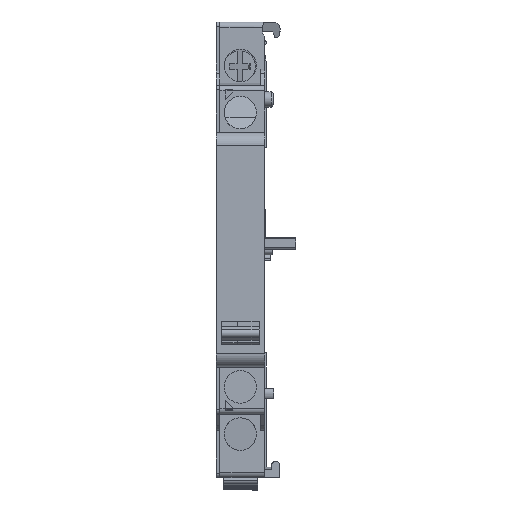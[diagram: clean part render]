
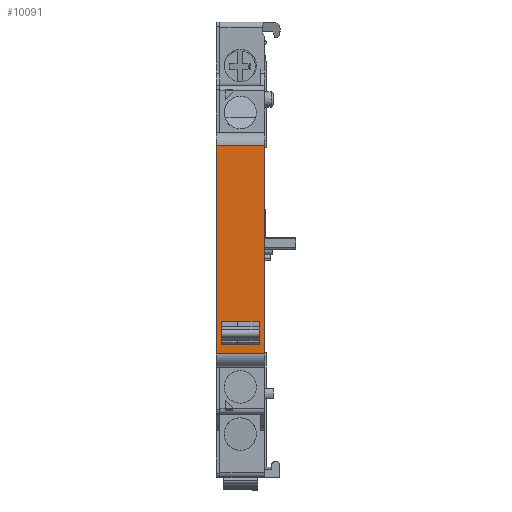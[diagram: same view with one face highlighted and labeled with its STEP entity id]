
A CAD part, left-side view. The second image highlights one B-rep face of the part: STEP entity #10091.
In plain terms, the highlighted planar face has unit normal (-1, 0, 0).
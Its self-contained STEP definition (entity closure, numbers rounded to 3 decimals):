
#3069=DIRECTION('',(0.,0.,1.));
#3070=VECTOR('',#3069,39.8);
#3071=CARTESIAN_POINT('',(0.,-0.1,-19.9));
#3072=LINE('',#3071,#3070);
#3077=DIRECTION('',(0.,1.,0.));
#3078=VECTOR('',#3077,9.3);
#3079=CARTESIAN_POINT('',(0.,-0.1,19.9));
#3080=LINE('',#3079,#3078);
#3128=DIRECTION('',(0.,0.,-1.));
#3129=VECTOR('',#3128,39.8);
#3130=CARTESIAN_POINT('',(0.,9.2,19.9));
#3131=LINE('',#3130,#3129);
#3262=DIRECTION('',(0.,-1.,0.));
#3263=VECTOR('',#3262,7.2);
#3264=CARTESIAN_POINT('',(0.,8.2,-13.7));
#3265=LINE('',#3264,#3263);
#3278=DIRECTION('',(0.,-1.,0.));
#3279=VECTOR('',#3278,7.2);
#3280=CARTESIAN_POINT('',(0.,8.2,-18.1));
#3281=LINE('',#3280,#3279);
#3282=DIRECTION('',(0.,0.,1.));
#3283=VECTOR('',#3282,2.15);
#3284=CARTESIAN_POINT('',(0.,1.,-18.1));
#3285=LINE('',#3284,#3283);
#3286=DIRECTION('',(0.,0.,1.));
#3287=VECTOR('',#3286,2.25);
#3288=CARTESIAN_POINT('',(0.,1.,-15.95));
#3289=LINE('',#3288,#3287);
#3303=DIRECTION('',(0.,0.,1.));
#3304=VECTOR('',#3303,2.25);
#3305=CARTESIAN_POINT('',(0.,8.2,-15.95));
#3306=LINE('',#3305,#3304);
#3311=DIRECTION('',(0.,0.,1.));
#3312=VECTOR('',#3311,2.15);
#3313=CARTESIAN_POINT('',(0.,8.2,-18.1));
#3314=LINE('',#3313,#3312);
#4338=DIRECTION('',(0.,-1.,0.));
#4339=VECTOR('',#4338,9.3);
#4340=CARTESIAN_POINT('',(0.,9.2,-19.9));
#4341=LINE('',#4340,#4339);
#5708=CARTESIAN_POINT('',(0.,1.,-13.7));
#5709=VERTEX_POINT('',#5708);
#5710=CARTESIAN_POINT('',(0.,1.,-15.95));
#5711=VERTEX_POINT('',#5710);
#5724=CARTESIAN_POINT('',(0.,1.,-18.1));
#5725=VERTEX_POINT('',#5724);
#5946=CARTESIAN_POINT('',(0.,-0.1,19.9));
#5948=VERTEX_POINT('',#5946);
#6026=CARTESIAN_POINT('',(0.,-0.1,-19.9));
#6027=VERTEX_POINT('',#6026);
#6030=CARTESIAN_POINT('',(0.,9.2,19.9));
#6031=VERTEX_POINT('',#6030);
#6054=CARTESIAN_POINT('',(0.,9.2,-19.9));
#6055=VERTEX_POINT('',#6054);
#6114=CARTESIAN_POINT('',(0.,8.2,-13.7));
#6115=VERTEX_POINT('',#6114);
#6116=CARTESIAN_POINT('',(0.,8.2,-15.95));
#6117=VERTEX_POINT('',#6116);
#6118=CARTESIAN_POINT('',(0.,8.2,-18.1));
#6119=VERTEX_POINT('',#6118);
#10068=CARTESIAN_POINT('',(0.,0.,-22.4));
#10069=DIRECTION('',(-1.,0.,0.));
#10070=DIRECTION('',(0.,0.,1.));
#10071=AXIS2_PLACEMENT_3D('',#10068,#10069,#10070);
#10072=PLANE('',#10071);
#10073=ORIENTED_EDGE('',*,*,#9893,.F.);
#10074=ORIENTED_EDGE('',*,*,#9880,.F.);
#10076=ORIENTED_EDGE('',*,*,#10075,.F.);
#10077=ORIENTED_EDGE('',*,*,#9941,.F.);
#10078=EDGE_LOOP('',(#10073,#10074,#10076,#10077));
#10079=FACE_OUTER_BOUND('',#10078,.F.);
#10080=ORIENTED_EDGE('',*,*,#10056,.F.);
#10082=ORIENTED_EDGE('',*,*,#10081,.F.);
#10084=ORIENTED_EDGE('',*,*,#10083,.F.);
#10086=ORIENTED_EDGE('',*,*,#10085,.T.);
#10087=ORIENTED_EDGE('',*,*,#8332,.T.);
#10088=ORIENTED_EDGE('',*,*,#8316,.T.);
#10089=EDGE_LOOP('',(#10080,#10082,#10084,#10086,#10087,#10088));
#10090=FACE_BOUND('',#10089,.F.);
#10091=ADVANCED_FACE('',(#10079,#10090),#10072,.T.);
#8316=EDGE_CURVE('',#5711,#5709,#3289,.T.);
#8332=EDGE_CURVE('',#5725,#5711,#3285,.T.);
#9880=EDGE_CURVE('',#6027,#5948,#3072,.T.);
#9893=EDGE_CURVE('',#5948,#6031,#3080,.T.);
#9941=EDGE_CURVE('',#6031,#6055,#3131,.T.);
#10056=EDGE_CURVE('',#6115,#5709,#3265,.T.);
#10075=EDGE_CURVE('',#6055,#6027,#4341,.T.);
#10081=EDGE_CURVE('',#6117,#6115,#3306,.T.);
#10083=EDGE_CURVE('',#6119,#6117,#3314,.T.);
#10085=EDGE_CURVE('',#6119,#5725,#3281,.T.);
